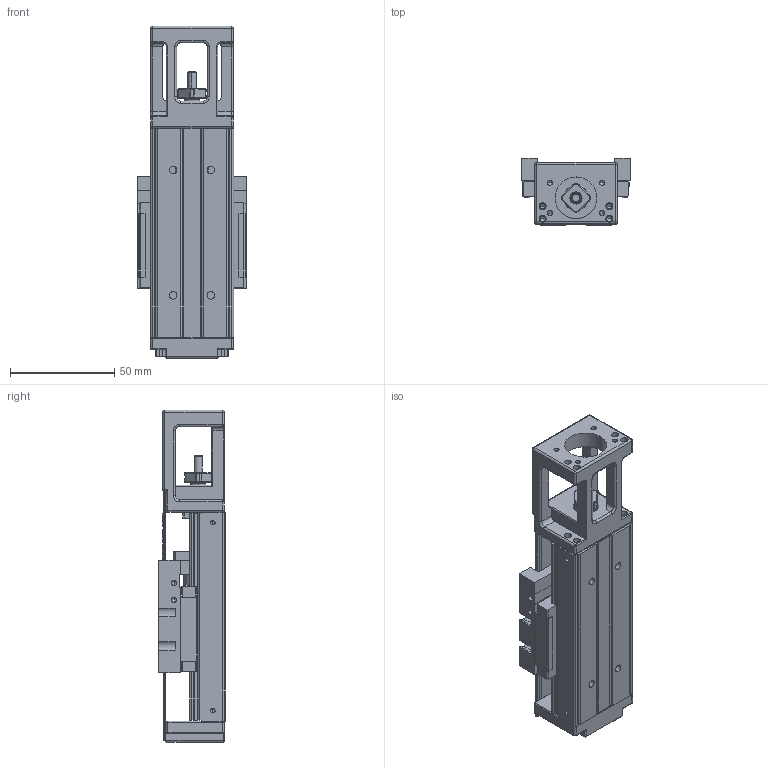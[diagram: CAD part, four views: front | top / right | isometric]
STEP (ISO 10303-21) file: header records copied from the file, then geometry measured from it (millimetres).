
FILE_DESCRIPTION (( 'STEP AP203' ), '1' );
FILE_NAME ('hkk40-100a1f0c.STEP', '2016-11-03T02:19:45', ( 'Windows' ), ( 'Microsoft' ), 'SwSTEP 2.0', 'SolidWorks 2016', '' );
FILE_SCHEMA (( 'CONFIG_CONTROL_DESIGN' ));
Length unit declared in the file: millimetre
Products named in the file (3): hkk40-100a1f0c; 掛极; 40賑怢郪
Assembly tree (2 placements, depth 2):
  hkk40-100a1f0c
    掛极
    40賑怢郪
Bounding box: 52 x 32 x 159 mm (x, y, z)
Volume: 101188.3 mm3; surface area: 58999.2 mm2
Topology: 13 solids, 23 shells, 1125 faces, 2927 edges, 1770 vertices
Faces by surface type: cylinder 421, plane 369, cone 201, bspline 102, torus 22, sphere 10
Entity records: 45794 total; most frequent: CARTESIAN_POINT 19174, ORIENTED_EDGE 5626, DIRECTION 5158, EDGE_CURVE 2813, AXIS2_PLACEMENT_3D 1823, VERTEX_POINT 1770, LINE 1512, VECTOR 1512
